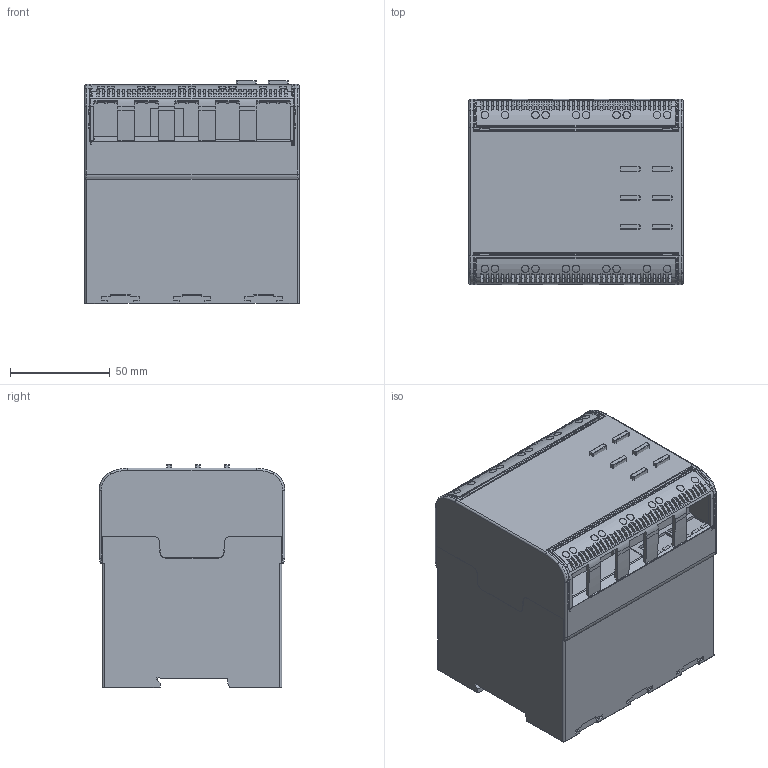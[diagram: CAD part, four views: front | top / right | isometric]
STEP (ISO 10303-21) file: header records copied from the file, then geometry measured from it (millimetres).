
FILE_DESCRIPTION(/* description */ (''),/* implementation_level */ '2;1');
FILE_NAME(/* name */ 'X:\Digidirect\CAD\Importierte Komponenten\Iso685-D\Iso685-D_Substitute_6.stp',/* time_stamp */ '2014-06-25T07:42:52+02:00',/* author */ ('m.jost'),/* organization */ (''),/* preprocessor_version */ 'ST-DEVELOPER v15.2',/* originating_system */ 'Autodesk Inventor 2014',/* authorisation */ '');
FILE_SCHEMA (('CONFIG_CONTROL_DESIGN'));
Length unit declared in the file: millimetre
Products named in the file (1): Iso685-D_Substitute_6
Bounding box: 107.5 x 93 x 112 mm (x, y, z)
Surface area: 80749.8 mm2 (no closed solid volume)
Topology: 0 solids, 23 shells, 824 faces, 3520 edges, 2454 vertices
Faces by surface type: plane 566, cylinder 218, torus 36, bspline 4
Full cylindrical faces by diameter (mm): 3.7 x20
Entity records: 37937 total; most frequent: CARTESIAN_POINT 9937, DIRECTION 5685, ORIENTED_EDGE 5492, EDGE_CURVE 3500, VERTEX_POINT 2454, LINE 2253, VECTOR 2253, AXIS2_PLACEMENT_3D 1716
